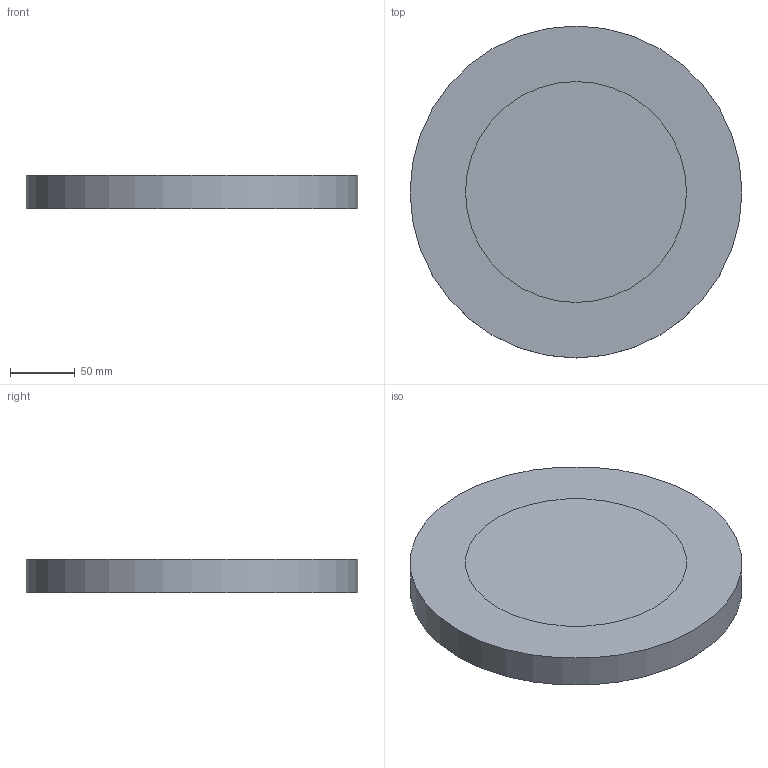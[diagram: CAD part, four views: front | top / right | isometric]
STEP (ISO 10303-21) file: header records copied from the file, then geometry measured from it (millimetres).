
FILE_DESCRIPTION( ( 'Unknown' ), '1' );
FILE_NAME( 'C:/Users/work/Documents/Solid Edge/heavy_gas_cherenkov/step/quartz_assembly.step', 'Unknown', ( 'Unknown' ), ( 'Unknown' ), 'PSStep 10.1', 'Unknown', ' ' );
FILE_SCHEMA( ( 'AUTOMOTIVE_DESIGN { 1 0 10303 214 1 1 1 1 }' ) );
Length unit declared in the file: millimetre
Products named in the file (3): Assem1; quartz_holder; quartz_window
Bounding box: 255.4 x 255.4 x 25.4 mm (x, y, z)
Surface area: 301666.7 mm2
Topology: 4 solids, 4 shells, 18 faces, 24 edges, 16 vertices
Faces by surface type: plane 10, cylinder 8
Full cylindrical faces by diameter (mm): 150 x2, 170 x4, 255.4 x2
Entity records: 302 total; most frequent: DIRECTION 40, CARTESIAN_POINT 28, AXIS2_PLACEMENT_3D 20, EDGE_LOOP 16, ORIENTED_EDGE 16, FACE_OUTER_BOUND 13, STYLED_ITEM 9, PRESENTATION_STYLE_ASSIGNMENT 9
